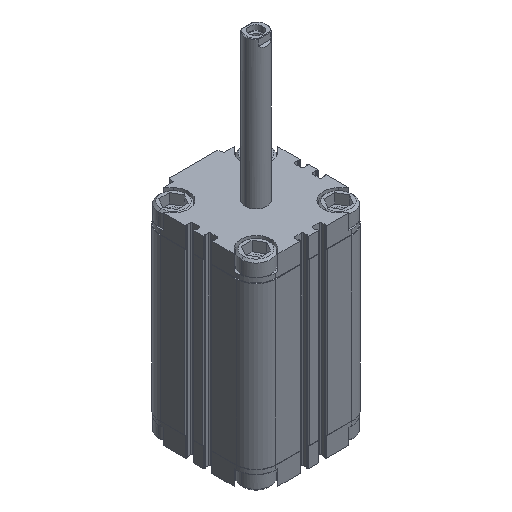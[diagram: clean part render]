
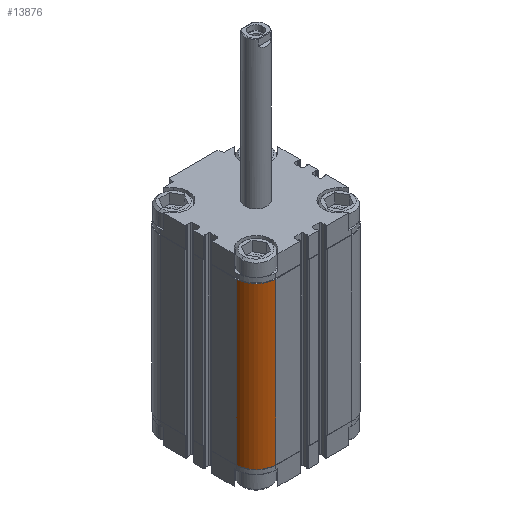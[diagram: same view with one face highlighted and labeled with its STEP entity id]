
A CAD part, isometric view. The second image highlights one B-rep face of the part: STEP entity #13876.
In plain terms, the highlighted cylindrical face has radius 15 mm (diameter 30 mm), a partial arc.
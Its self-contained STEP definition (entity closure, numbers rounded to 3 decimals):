
#1997 = DIRECTION ( 'NONE',  ( -1., 0., 0. ) ) ;
#2004 = DIRECTION ( 'NONE',  ( 0., 0., -1. ) ) ;
#2005 = CARTESIAN_POINT ( 'NONE',  ( -28.5, -28.5, 46. ) ) ;
#2148 = FACE_OUTER_BOUND ( 'NONE', #8318, .T. ) ;
#2158 = CYLINDRICAL_SURFACE ( 'NONE', #9168, 15. ) ;
#7904 = VERTEX_POINT ( 'NONE', #10603 ) ;
#7905 = VERTEX_POINT ( 'NONE', #10604 ) ;
#7906 = VERTEX_POINT ( 'NONE', #10605 ) ;
#7909 = VERTEX_POINT ( 'NONE', #10608 ) ;
#8318 = EDGE_LOOP ( 'NONE', ( #11307, #11308, #11309, #11310 ) ) ;
#8974 = AXIS2_PLACEMENT_3D ( 'NONE', #13047, #13048, #13049 ) ;
#8976 = AXIS2_PLACEMENT_3D ( 'NONE', #13057, #13058, #13059 ) ;
#9168 = AXIS2_PLACEMENT_3D ( 'NONE', #2005, #2004, #1997 ) ;
#10603 = CARTESIAN_POINT ( 'NONE',  ( -43.5, -28.5, 46. ) ) ;
#10604 = CARTESIAN_POINT ( 'NONE',  ( -43.5, -28.5, -75. ) ) ;
#10605 = CARTESIAN_POINT ( 'NONE',  ( -28.5, -43.5, 46. ) ) ;
#10608 = CARTESIAN_POINT ( 'NONE',  ( -28.5, -43.5, -75. ) ) ;
#11307 = ORIENTED_EDGE ( 'NONE', *, *, #11617, .T. ) ;
#11308 = ORIENTED_EDGE ( 'NONE', *, *, #11619, .F. ) ;
#11309 = ORIENTED_EDGE ( 'NONE', *, *, #11613, .F. ) ;
#11310 = ORIENTED_EDGE ( 'NONE', *, *, #11621, .T. ) ;
#11613 = EDGE_CURVE ( 'NONE', #7905, #7904, #13278, .T. ) ;
#11617 = EDGE_CURVE ( 'NONE', #7909, #7906, #13285, .T. ) ;
#11619 = EDGE_CURVE ( 'NONE', #7904, #7906, #13286, .T. ) ;
#11621 = EDGE_CURVE ( 'NONE', #7905, #7909, #13290, .T. ) ;
#13033 = CARTESIAN_POINT ( 'NONE',  ( -43.5, -28.5, -14.5 ) ) ;
#13034 = DIRECTION ( 'NONE',  ( 0., 0., 1. ) ) ;
#13035 = DIRECTION ( 'NONE',  ( 0., 0., 1. ) ) ;
#13036 = CARTESIAN_POINT ( 'NONE',  ( -28.5, -43.5, -14.5 ) ) ;
#13047 = CARTESIAN_POINT ( 'NONE',  ( -28.5, -28.5, 46. ) ) ;
#13048 = DIRECTION ( 'NONE',  ( 0., 0., 1. ) ) ;
#13049 = DIRECTION ( 'NONE',  ( -1., 0., 0. ) ) ;
#13057 = CARTESIAN_POINT ( 'NONE',  ( -28.5, -28.5, -75. ) ) ;
#13058 = DIRECTION ( 'NONE',  ( 0., 0., 1. ) ) ;
#13059 = DIRECTION ( 'NONE',  ( -1., 0., 0. ) ) ;
#13278 = LINE ( 'NONE', #13033, #13281 ) ;
#13281 = VECTOR ( 'NONE', #13034, 1000. ) ;
#13285 = LINE ( 'NONE', #13036, #13287 ) ;
#13286 = CIRCLE ( 'NONE', #8974, 15. ) ;
#13287 = VECTOR ( 'NONE', #13035, 1000. ) ;
#13290 = CIRCLE ( 'NONE', #8976, 15. ) ;
#13876 = ADVANCED_FACE ( 'NONE', ( #2148 ), #2158, .T. ) ;
